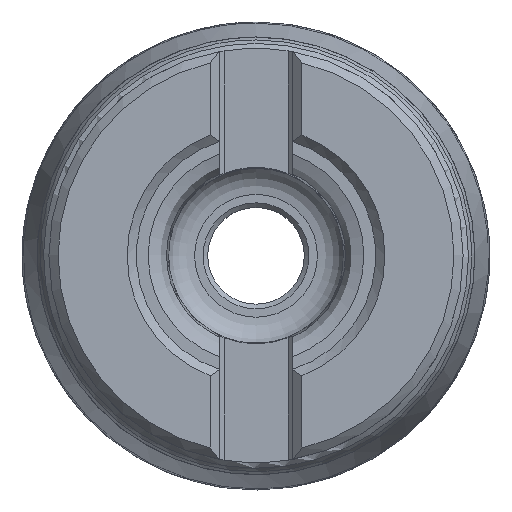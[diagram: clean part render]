
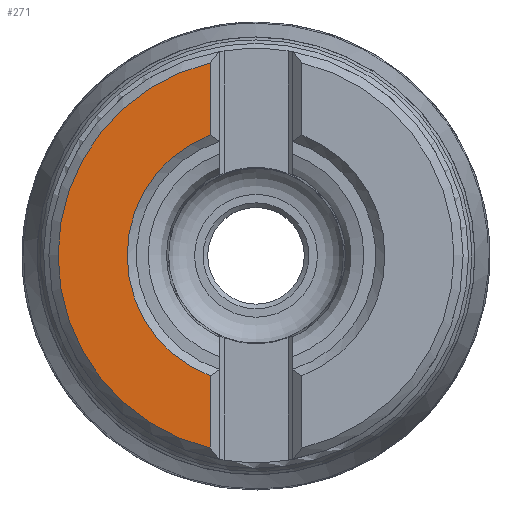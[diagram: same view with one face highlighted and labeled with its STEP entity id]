
A CAD part, top view. The second image highlights one B-rep face of the part: STEP entity #271.
In plain terms, the highlighted planar face has unit normal (0, 0, 1).
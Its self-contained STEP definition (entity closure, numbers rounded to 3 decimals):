
#129=FACE_OUTER_BOUND('',#530,.T.);
#169=LINE('',#1830,#193);
#170=LINE('',#1834,#194);
#193=VECTOR('',#1438,1.);
#194=VECTOR('',#1441,1.);
#271=ADVANCED_FACE('',(#129),#365,.T.);
#365=PLANE('',#1274);
#530=EDGE_LOOP('',(#710,#711,#712,#713));
#710=ORIENTED_EDGE('',*,*,#1088,.T.);
#711=ORIENTED_EDGE('',*,*,#1089,.T.);
#712=ORIENTED_EDGE('',*,*,#1090,.F.);
#713=ORIENTED_EDGE('',*,*,#1091,.T.);
#978=VERTEX_POINT('',#1828);
#979=VERTEX_POINT('',#1829);
#980=VERTEX_POINT('',#1831);
#981=VERTEX_POINT('',#1833);
#1088=EDGE_CURVE('',#978,#979,#1212,.T.);
#1089=EDGE_CURVE('',#979,#980,#169,.T.);
#1090=EDGE_CURVE('',#981,#980,#1213,.T.);
#1091=EDGE_CURVE('',#981,#978,#170,.T.);
#1212=CIRCLE('',#1272,21.5);
#1213=CIRCLE('',#1273,14.);
#1272=AXIS2_PLACEMENT_3D('',#1827,#1436,#1437);
#1273=AXIS2_PLACEMENT_3D('',#1832,#1439,#1440);
#1274=AXIS2_PLACEMENT_3D('',#1835,#1442,#1443);
#1436=DIRECTION('',(0.,0.,1.));
#1437=DIRECTION('',(1.,0.,0.));
#1438=DIRECTION('',(0.,1.,0.));
#1439=DIRECTION('',(0.,0.,1.));
#1440=DIRECTION('',(1.,0.,0.));
#1441=DIRECTION('',(0.,1.,0.));
#1442=DIRECTION('',(0.,0.,1.));
#1443=DIRECTION('',(-1.,0.,0.));
#1827=CARTESIAN_POINT('',(0.,0.,40.));
#1828=CARTESIAN_POINT('',(-4.975,20.916,40.));
#1829=CARTESIAN_POINT('',(-4.975,-20.916,40.));
#1830=CARTESIAN_POINT('',(-4.975,0.,40.));
#1831=CARTESIAN_POINT('',(-4.975,-13.086,40.));
#1832=CARTESIAN_POINT('',(0.,0.,40.));
#1833=CARTESIAN_POINT('',(-4.975,13.086,40.));
#1834=CARTESIAN_POINT('',(-4.975,0.,40.));
#1835=CARTESIAN_POINT('',(0.,0.,40.));
